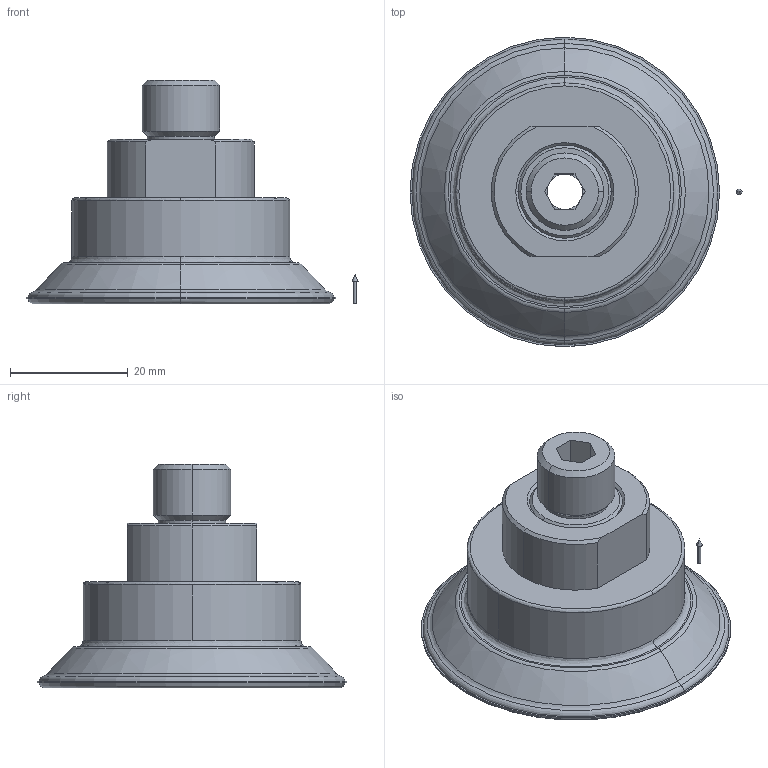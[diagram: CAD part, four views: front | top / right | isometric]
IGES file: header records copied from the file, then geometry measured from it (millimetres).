
Start section: 3D InterOp IGES (v. 2018 1.0.2), Spatial Corp. Copyright (c) 1999-2017.
Global section: file name: schmalz_10_01_01_10635_8ocukfjx1rcgx4l1rpz3od4lr.igs; native system: Spatial Corp.; preprocessor: 3D InterOp ACIS/IGES; author: TraceParts; organization: TraceParts S.A.; date: 20181102.035204; units: millimetre
Bounding box: 56.4 x 52.6 x 38 mm (x, y, z)
Surface area: 9018.4 mm2 (no closed solid volume)
Topology: 0 solids, 0 shells, 118 faces, 584 edges, 582 vertices
Faces by surface type: revolution 92, extrusion 26
